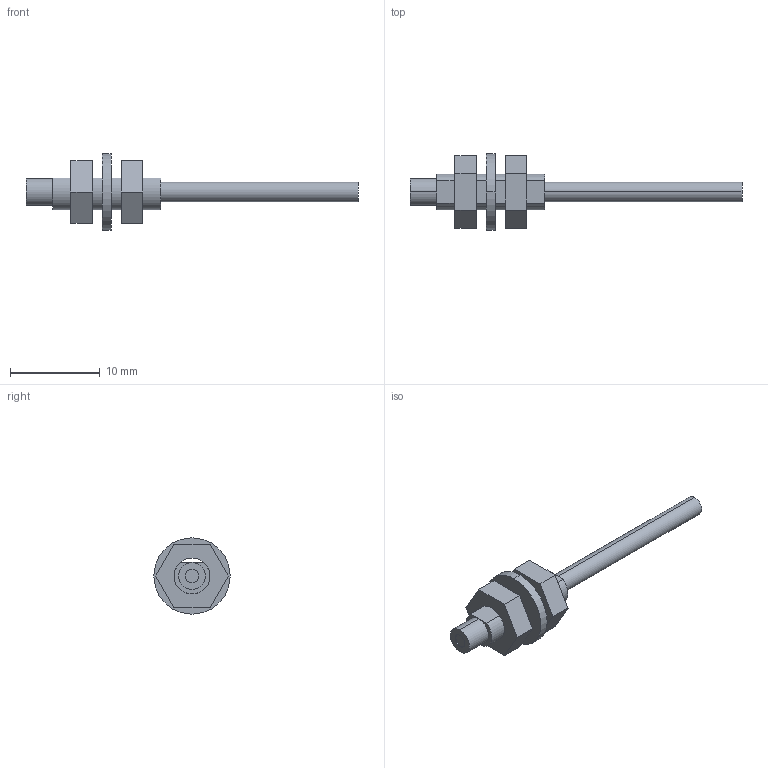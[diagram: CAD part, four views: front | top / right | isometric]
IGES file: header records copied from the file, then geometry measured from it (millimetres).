
Start section: SolidWorks IGES FILE using analytic representation for surfaces
Global section: file name: C:\Documents and Settings\yk0651\デスクトップ\3D_catalog_050929\0_IGES\FT-H13-FM2.IGS; native system: SolidWorks 2004 by SolidWorks Corporation; preprocessor: Version 5.3; author: yk0651; date: 051002.175153; units: millimetre
Bounding box: 37 x 8.5 x 8.5 mm (x, y, z)
Volume: 433.7 mm3; surface area: 776.5 mm2
Topology: 4 solids, 4 shells, 39 faces, 84 edges, 56 vertices
Faces by surface type: plane 24, revolution 15
